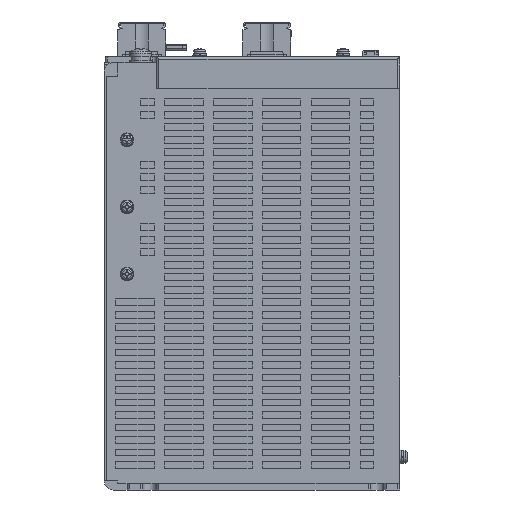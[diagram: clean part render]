
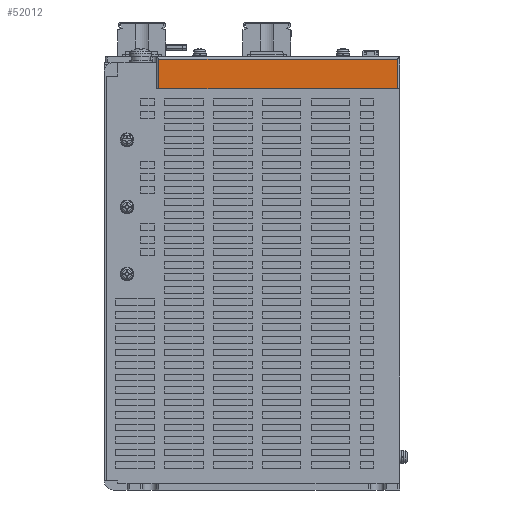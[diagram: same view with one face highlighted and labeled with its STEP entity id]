
A CAD part, front view. The second image highlights one B-rep face of the part: STEP entity #52012.
In plain terms, the highlighted planar face has unit normal (0, -1, 0).
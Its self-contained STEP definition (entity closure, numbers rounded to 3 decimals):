
#7347 = EDGE_LOOP ( 'NONE', ( #305713, #84227, #23782, #124799 ) ) ;
#10202 = CARTESIAN_POINT ( 'NONE',  ( -51.379, -113.446, 460.5 ) ) ;
#23782 = ORIENTED_EDGE ( 'NONE', *, *, #75404, .T. ) ;
#28486 = VECTOR ( 'NONE', #119664, 1000. ) ;
#42117 = CARTESIAN_POINT ( 'NONE',  ( 53.621, -113.446, 459.5 ) ) ;
#44309 = DIRECTION ( 'NONE',  ( 0., 0., 1. ) ) ;
#52012 = ADVANCED_FACE ( 'NONE', ( #221118 ), #271729, .F. ) ;
#52832 = VERTEX_POINT ( 'NONE', #200347 ) ;
#59190 = CARTESIAN_POINT ( 'NONE',  ( 54.621, -113.446, 446.5 ) ) ;
#75404 = EDGE_CURVE ( 'NONE', #106803, #215009, #357271, .T. ) ;
#83590 = CARTESIAN_POINT ( 'NONE',  ( -51.379, -113.446, 459.5 ) ) ;
#84227 = ORIENTED_EDGE ( 'NONE', *, *, #160282, .T. ) ;
#86153 = LINE ( 'NONE', #59190, #28486 ) ;
#89058 = DIRECTION ( 'NONE',  ( -1., 0., 0. ) ) ;
#90956 = LINE ( 'NONE', #10202, #105144 ) ;
#92196 = VERTEX_POINT ( 'NONE', #97163 ) ;
#97163 = CARTESIAN_POINT ( 'NONE',  ( 53.621, -113.446, 446.5 ) ) ;
#105144 = VECTOR ( 'NONE', #225027, 1000. ) ;
#106803 = VERTEX_POINT ( 'NONE', #42117 ) ;
#119664 = DIRECTION ( 'NONE',  ( -1., 0., 0. ) ) ;
#124799 = ORIENTED_EDGE ( 'NONE', *, *, #274366, .T. ) ;
#126432 = EDGE_CURVE ( 'NONE', #92196, #52832, #86153, .T. ) ;
#142159 = AXIS2_PLACEMENT_3D ( 'NONE', #396044, #369187, #89058 ) ;
#160282 = EDGE_CURVE ( 'NONE', #92196, #106803, #163101, .T. ) ;
#163101 = LINE ( 'NONE', #257759, #340356 ) ;
#200347 = CARTESIAN_POINT ( 'NONE',  ( -51.379, -113.446, 446.5 ) ) ;
#213619 = VECTOR ( 'NONE', #261959, 1000. ) ;
#215009 = VERTEX_POINT ( 'NONE', #83590 ) ;
#221118 = FACE_OUTER_BOUND ( 'NONE', #7347, .T. ) ;
#225027 = DIRECTION ( 'NONE',  ( 0., 0., -1. ) ) ;
#252721 = CARTESIAN_POINT ( 'NONE',  ( 54.621, -113.446, 459.5 ) ) ;
#257759 = CARTESIAN_POINT ( 'NONE',  ( 53.621, -113.446, 460.5 ) ) ;
#261959 = DIRECTION ( 'NONE',  ( -1., 0., 0. ) ) ;
#271729 = PLANE ( 'NONE',  #142159 ) ;
#274366 = EDGE_CURVE ( 'NONE', #215009, #52832, #90956, .T. ) ;
#305713 = ORIENTED_EDGE ( 'NONE', *, *, #126432, .F. ) ;
#340356 = VECTOR ( 'NONE', #44309, 1000. ) ;
#357271 = LINE ( 'NONE', #252721, #213619 ) ;
#369187 = DIRECTION ( 'NONE',  ( 0., 1., 0. ) ) ;
#396044 = CARTESIAN_POINT ( 'NONE',  ( 54.621, -113.446, 460.5 ) ) ;
